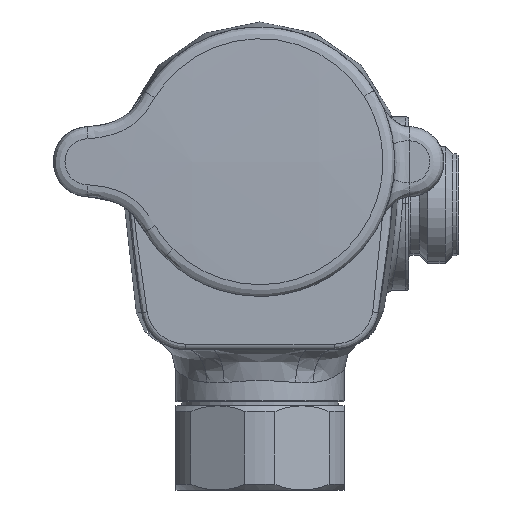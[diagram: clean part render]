
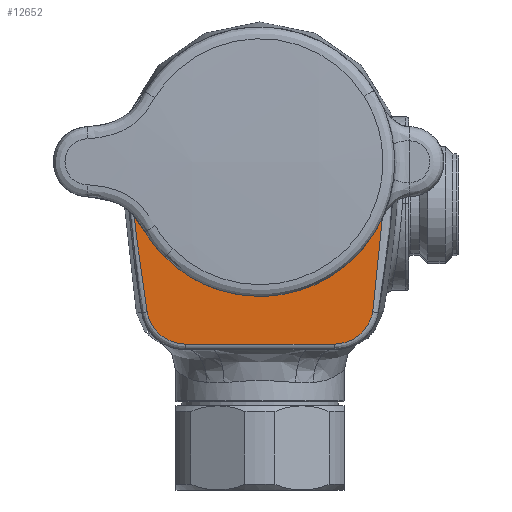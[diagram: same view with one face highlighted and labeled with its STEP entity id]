
A CAD part, left-side view. The second image highlights one B-rep face of the part: STEP entity #12652.
In plain terms, the highlighted planar face has unit normal (-1, 0, 0).
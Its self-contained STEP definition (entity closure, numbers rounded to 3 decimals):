
#290 = VERTEX_POINT ( 'NONE', #1090 ) ;
#458 = CARTESIAN_POINT ( 'NONE',  ( -97., -20.116, -26.727 ) ) ;
#1090 = CARTESIAN_POINT ( 'NONE',  ( -97., 20.212, 0. ) ) ;
#1176 = CARTESIAN_POINT ( 'NONE',  ( -97., 0., 0. ) ) ;
#1335 = FACE_BOUND ( 'NONE', #16447, .T. ) ;
#1467 = CARTESIAN_POINT ( 'NONE',  ( -97., 20.116, -26.727 ) ) ;
#1561 = CARTESIAN_POINT ( 'NONE',  ( -97., -22.792, 3.433 ) ) ;
#2884 = CARTESIAN_POINT ( 'NONE',  ( -97., 14.866, -32.5 ) ) ;
#3626 = CARTESIAN_POINT ( 'NONE',  ( -97., -22.526, -8.421 ) ) ;
#3734 = CARTESIAN_POINT ( 'NONE',  ( -97., 21.467, 9.806 ) ) ;
#3770 = CIRCLE ( 'NONE', #5986, 20.212 ) ;
#3835 = CARTESIAN_POINT ( 'NONE',  ( -97., -22.956, -1.835 ) ) ;
#4184 = LINE ( 'NONE', #24904, #14854 ) ;
#4410 = B_SPLINE_CURVE_WITH_KNOTS ( 'NONE', 3,
 ( #9735, #17024, #26148, #10137, #5123, #458 ),
 .UNSPECIFIED., .F., .F.,
 ( 4, 2, 4 ),
 ( 0., 0.5, 1. ),
 .UNSPECIFIED. ) ;
#5123 = CARTESIAN_POINT ( 'NONE',  ( -97., -19.828, -28.343 ) ) ;
#5366 = CARTESIAN_POINT ( 'NONE',  ( -97., 16.465, -31.917 ) ) ;
#5986 = AXIS2_PLACEMENT_3D ( 'NONE', #1176, #25021, #19960 ) ;
#6108 = CARTESIAN_POINT ( 'NONE',  ( -97., 23.046, -0.503 ) ) ;
#6217 = CARTESIAN_POINT ( 'NONE',  ( -97., 22.953, 2.111 ) ) ;
#6544 = PLANE ( 'NONE',  #25535 ) ;
#6811 = ORIENTED_EDGE ( 'NONE', *, *, #18468, .T. ) ;
#7604 = FACE_OUTER_BOUND ( 'NONE', #29224, .T. ) ;
#8661 = CARTESIAN_POINT ( 'NONE',  ( -97., 21.043, -21.521 ) ) ;
#8804 = DIRECTION ( 'NONE',  ( 0., 1., 0. ) ) ;
#9138 = CARTESIAN_POINT ( 'NONE',  ( -97., 0., 0. ) ) ;
#9648 = CARTESIAN_POINT ( 'NONE',  ( -97., -20.116, -26.727 ) ) ;
#9735 = CARTESIAN_POINT ( 'NONE',  ( -97., -13.224, -32.5 ) ) ;
#9987 = CARTESIAN_POINT ( 'NONE',  ( -97., 13.224, -32.5 ) ) ;
#10137 = CARTESIAN_POINT ( 'NONE',  ( -97., -18.974, -29.815 ) ) ;
#10626 = CARTESIAN_POINT ( 'NONE',  ( -97., -22.953, 2.115 ) ) ;
#10828 = CARTESIAN_POINT ( 'NONE',  ( -97., 21.76, -16.293 ) ) ;
#10937 = CARTESIAN_POINT ( 'NONE',  ( -97., -10.432, 21.169 ) ) ;
#11253 = AXIS2_PLACEMENT_3D ( 'NONE', #9138, #18466, #18565 ) ;
#11913 = ORIENTED_EDGE ( 'NONE', *, *, #30319, .T. ) ;
#12030 = VERTEX_POINT ( 'NONE', #23285 ) ;
#12120 = VERTEX_POINT ( 'NONE', #12518 ) ;
#12518 = CARTESIAN_POINT ( 'NONE',  ( -97., 20.116, -26.727 ) ) ;
#12652 = ADVANCED_FACE ( 'NONE', ( #1335, #7604 ), #6544, .T. ) ;
#12656 = CARTESIAN_POINT ( 'NONE',  ( -97., 18.974, -29.815 ) ) ;
#13213 = CARTESIAN_POINT ( 'NONE',  ( -97., -21.76, -16.296 ) ) ;
#13320 = CARTESIAN_POINT ( 'NONE',  ( -97., 22.527, -8.415 ) ) ;
#13353 = CARTESIAN_POINT ( 'NONE',  ( -97., 13.224, -32.5 ) ) ;
#13813 = VERTEX_POINT ( 'NONE', #13353 ) ;
#14345 = ORIENTED_EDGE ( 'NONE', *, *, #19907, .T. ) ;
#14854 = VECTOR ( 'NONE', #22125, 1000. ) ;
#15079 = B_SPLINE_CURVE_WITH_KNOTS ( 'NONE', 3,
 ( #29789, #17797, #13213, #3626, #18094, #3835, #24987, #10626, #1561, #27240, #29575, #10937, #17697, #25082, #22310, #29476, #3734, #20144, #6217, #6108, #22516, #27339, #13320, #10828, #8661, #1467 ),
 .UNSPECIFIED., .F., .F.,
 ( 4, 2, 2, 2, 2, 2, 2, 2, 2, 2, 2, 2, 4 ),
 ( 0., 0.125, 0.188, 0.219, 0.25, 0.375, 0.5, 0.625, 0.75, 0.781, 0.813, 0.875, 1. ),
 .UNSPECIFIED. ) ;
#15681 = DIRECTION ( 'NONE',  ( -1., 0., 0. ) ) ;
#16447 = EDGE_LOOP ( 'NONE', ( #6811, #14345 ) ) ;
#17024 = CARTESIAN_POINT ( 'NONE',  ( -97., -14.866, -32.5 ) ) ;
#17068 = CARTESIAN_POINT ( 'NONE',  ( -97., 19.828, -28.343 ) ) ;
#17697 = CARTESIAN_POINT ( 'NONE',  ( -97., -5.219, 23.018 ) ) ;
#17797 = CARTESIAN_POINT ( 'NONE',  ( -97., -21.042, -21.523 ) ) ;
#17909 = EDGE_CURVE ( 'NONE', #13813, #26227, #4184, .T. ) ;
#18094 = CARTESIAN_POINT ( 'NONE',  ( -97., -22.73, -5.79 ) ) ;
#18466 = DIRECTION ( 'NONE',  ( 1., 0., 0. ) ) ;
#18468 = EDGE_CURVE ( 'NONE', #12030, #290, #23615, .T. ) ;
#18565 = DIRECTION ( 'NONE',  ( 0., 0., 1. ) ) ;
#18830 = EDGE_CURVE ( 'NONE', #26227, #25717, #4410, .T. ) ;
#19907 = EDGE_CURVE ( 'NONE', #290, #12030, #3770, .T. ) ;
#19960 = DIRECTION ( 'NONE',  ( 0., 0., 1. ) ) ;
#20144 = CARTESIAN_POINT ( 'NONE',  ( -97., 22.796, 3.405 ) ) ;
#22125 = DIRECTION ( 'NONE',  ( 0., -1., 0. ) ) ;
#22310 = CARTESIAN_POINT ( 'NONE',  ( -97., 10.469, 21.148 ) ) ;
#22380 = ORIENTED_EDGE ( 'NONE', *, *, #27818, .T. ) ;
#22516 = CARTESIAN_POINT ( 'NONE',  ( -97., 22.957, -1.827 ) ) ;
#23285 = CARTESIAN_POINT ( 'NONE',  ( -97., -20.212, 0. ) ) ;
#23615 = CIRCLE ( 'NONE', #11253, 20.212 ) ;
#24042 = B_SPLINE_CURVE_WITH_KNOTS ( 'NONE', 3,
 ( #24225, #17068, #12656, #5366, #2884, #9987 ),
 .UNSPECIFIED., .F., .F.,
 ( 4, 2, 4 ),
 ( 0., 0.5, 1. ),
 .UNSPECIFIED. ) ;
#24225 = CARTESIAN_POINT ( 'NONE',  ( -97., 20.116, -26.727 ) ) ;
#24904 = CARTESIAN_POINT ( 'NONE',  ( -97., 0., -32.5 ) ) ;
#24987 = CARTESIAN_POINT ( 'NONE',  ( -97., -23.046, -0.513 ) ) ;
#25021 = DIRECTION ( 'NONE',  ( 1., 0., 0. ) ) ;
#25082 = CARTESIAN_POINT ( 'NONE',  ( -97., 5.255, 23.01 ) ) ;
#25425 = CARTESIAN_POINT ( 'NONE',  ( -97., 175.809, 8.193 ) ) ;
#25535 = AXIS2_PLACEMENT_3D ( 'NONE', #25425, #15681, #8804 ) ;
#25717 = VERTEX_POINT ( 'NONE', #9648 ) ;
#26148 = CARTESIAN_POINT ( 'NONE',  ( -97., -16.464, -31.917 ) ) ;
#26227 = VERTEX_POINT ( 'NONE', #27854 ) ;
#27240 = CARTESIAN_POINT ( 'NONE',  ( -97., -21.451, 9.85 ) ) ;
#27339 = CARTESIAN_POINT ( 'NONE',  ( -97., 22.73, -5.784 ) ) ;
#27435 = ORIENTED_EDGE ( 'NONE', *, *, #18830, .T. ) ;
#27818 = EDGE_CURVE ( 'NONE', #12120, #13813, #24042, .T. ) ;
#27854 = CARTESIAN_POINT ( 'NONE',  ( -97., -13.224, -32.5 ) ) ;
#29128 = ORIENTED_EDGE ( 'NONE', *, *, #17909, .T. ) ;
#29224 = EDGE_LOOP ( 'NONE', ( #11913, #22380, #29128, #27435 ) ) ;
#29476 = CARTESIAN_POINT ( 'NONE',  ( -97., 18.588, 14.545 ) ) ;
#29575 = CARTESIAN_POINT ( 'NONE',  ( -97., -18.575, 14.565 ) ) ;
#29789 = CARTESIAN_POINT ( 'NONE',  ( -97., -20.116, -26.727 ) ) ;
#30319 = EDGE_CURVE ( 'NONE', #25717, #12120, #15079, .T. ) ;
